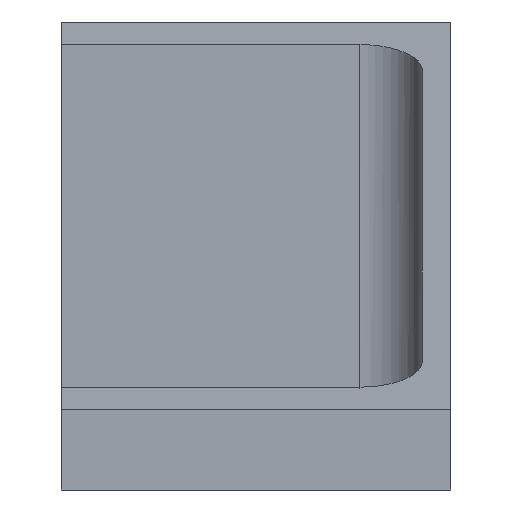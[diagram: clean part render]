
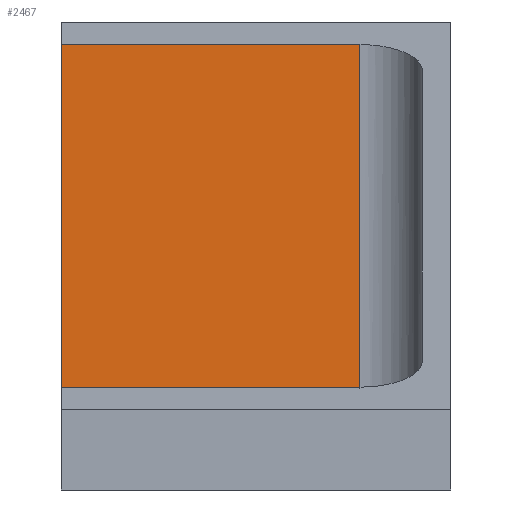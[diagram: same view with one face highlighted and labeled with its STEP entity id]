
A CAD part, left-side view. The second image highlights one B-rep face of the part: STEP entity #2467.
In plain terms, the highlighted planar face has unit normal (-1, 0, 0).
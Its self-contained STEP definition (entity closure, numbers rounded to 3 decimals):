
#136 = VERTEX_POINT ( 'NONE', #2296 ) ;
#160 = VECTOR ( 'NONE', #1944, 1000. ) ;
#198 = VECTOR ( 'NONE', #543, 1000. ) ;
#296 = CARTESIAN_POINT ( 'NONE',  ( 7079.5, 3562.5, 4190. ) ) ;
#337 = AXIS2_PLACEMENT_3D ( 'NONE', #885, #689, #2271 ) ;
#366 = PLANE ( 'NONE',  #337 ) ;
#402 = LINE ( 'NONE', #296, #567 ) ;
#409 = LINE ( 'NONE', #1009, #740 ) ;
#543 = DIRECTION ( 'NONE',  ( 0., 0., -1. ) ) ;
#566 = LINE ( 'NONE', #741, #198 ) ;
#567 = VECTOR ( 'NONE', #1873, 1000. ) ;
#571 = CARTESIAN_POINT ( 'NONE',  ( 7079.5, 3620., 4275.651 ) ) ;
#575 = ORIENTED_EDGE ( 'NONE', *, *, #965, .T. ) ;
#620 = CARTESIAN_POINT ( 'NONE',  ( 7079.5, 3620., 4190. ) ) ;
#689 = DIRECTION ( 'NONE',  ( 1., 0., 0. ) ) ;
#740 = VECTOR ( 'NONE', #2034, 1000. ) ;
#741 = CARTESIAN_POINT ( 'NONE',  ( 7079.5, 3620., 4280. ) ) ;
#860 = ORIENTED_EDGE ( 'NONE', *, *, #1477, .T. ) ;
#871 = FACE_OUTER_BOUND ( 'NONE', #981, .T. ) ;
#885 = CARTESIAN_POINT ( 'NONE',  ( 7079.5, 3562.5, 4280. ) ) ;
#965 = EDGE_CURVE ( 'NONE', #1760, #136, #402, .T. ) ;
#972 = ORIENTED_EDGE ( 'NONE', *, *, #1267, .F. ) ;
#981 = EDGE_LOOP ( 'NONE', ( #1240, #860, #575, #972 ) ) ;
#987 = VERTEX_POINT ( 'NONE', #2083 ) ;
#1009 = CARTESIAN_POINT ( 'NONE',  ( 7079.5, 3562.5, 4275.651 ) ) ;
#1240 = ORIENTED_EDGE ( 'NONE', *, *, #2028, .F. ) ;
#1267 = EDGE_CURVE ( 'NONE', #987, #136, #2364, .T. ) ;
#1477 = EDGE_CURVE ( 'NONE', #2160, #1760, #566, .T. ) ;
#1760 = VERTEX_POINT ( 'NONE', #620 ) ;
#1873 = DIRECTION ( 'NONE',  ( 0., -1., 0. ) ) ;
#1944 = DIRECTION ( 'NONE',  ( 0., 0., -1. ) ) ;
#2028 = EDGE_CURVE ( 'NONE', #2160, #987, #409, .T. ) ;
#2034 = DIRECTION ( 'NONE',  ( 0., -1., 0. ) ) ;
#2083 = CARTESIAN_POINT ( 'NONE',  ( 7079.5, 3562.5, 4275.651 ) ) ;
#2136 = CARTESIAN_POINT ( 'NONE',  ( 7079.5, 3562.5, 4280. ) ) ;
#2160 = VERTEX_POINT ( 'NONE', #571 ) ;
#2271 = DIRECTION ( 'NONE',  ( 0., 1., 0. ) ) ;
#2296 = CARTESIAN_POINT ( 'NONE',  ( 7079.5, 3562.5, 4190. ) ) ;
#2364 = LINE ( 'NONE', #2136, #160 ) ;
#2467 = ADVANCED_FACE ( 'NONE', ( #871 ), #366, .F. ) ;
